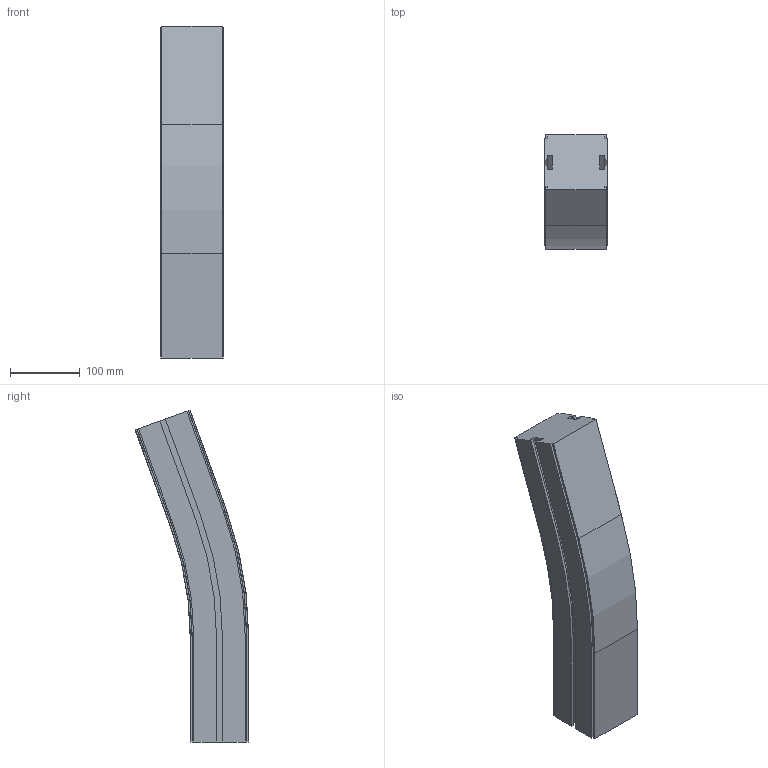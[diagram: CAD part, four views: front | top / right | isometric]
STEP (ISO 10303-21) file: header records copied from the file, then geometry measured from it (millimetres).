
FILE_DESCRIPTION (( 'STEP AP214' ), '1' );
FILE_NAME ('927761 CS090SL Verticale bochtsectie R500 20°.STEP', '2014-03-20T15:03:31', ( 'Beheerder' ), ( '' ), 'SwSTEP 2.0', 'SolidWorks 2012', '' );
FILE_SCHEMA (( 'AUTOMOTIVE_DESIGN' ));
Length unit declared in the file: millimetre
Products named in the file (1): 927761 CS090SL Verticale bochtsectie R500 20°
Bounding box: 90 x 162.92 x 476.33 mm (x, y, z)
Volume: 3395107.5 mm3; surface area: 229728.1 mm2
Topology: 1 solids, 1 shells, 98 faces, 272 edges, 176 vertices
Faces by surface type: plane 72, cylinder 18, cone 8
Entity records: 3126 total; most frequent: CARTESIAN_POINT 547, ORIENTED_EDGE 544, DIRECTION 514, EDGE_CURVE 272, VECTOR 228, LINE 228, VERTEX_POINT 176, AXIS2_PLACEMENT_3D 143
